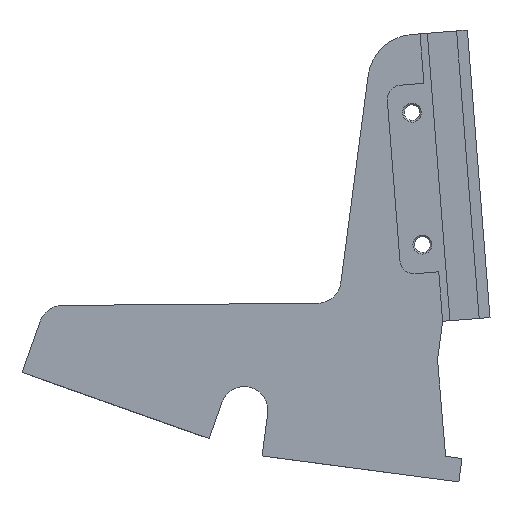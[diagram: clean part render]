
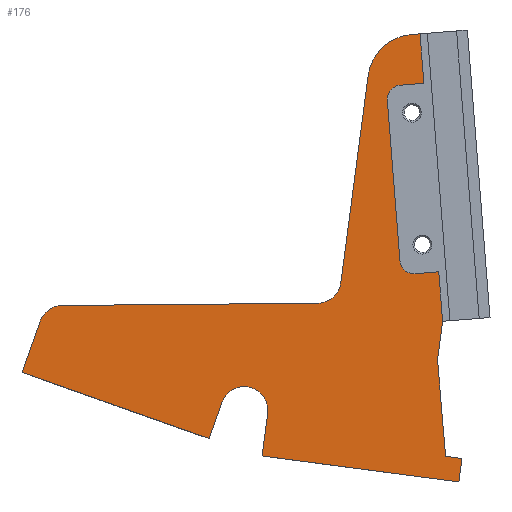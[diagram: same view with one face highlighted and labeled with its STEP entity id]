
A CAD part, left-side view. The second image highlights one B-rep face of the part: STEP entity #176.
In plain terms, the highlighted planar face has unit normal (-1, 0, 0).
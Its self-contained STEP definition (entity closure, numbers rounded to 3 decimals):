
#142=FACE_OUTER_BOUND('',#496,.T.);
#176=ADVANCED_FACE('',(#142),#235,.F.);
#235=PLANE('',#1125);
#264=LINE('',#1542,#349);
#284=LINE('',#1588,#369);
#286=LINE('',#1592,#371);
#287=LINE('',#1596,#372);
#288=LINE('',#1600,#373);
#289=LINE('',#1604,#374);
#290=LINE('',#1605,#375);
#291=LINE('',#1609,#376);
#292=LINE('',#1611,#377);
#293=LINE('',#1613,#378);
#294=LINE('',#1615,#379);
#295=LINE('',#1617,#380);
#296=LINE('',#1619,#381);
#297=LINE('',#1621,#382);
#298=LINE('',#1623,#383);
#299=LINE('',#1627,#384);
#300=LINE('',#1631,#385);
#349=VECTOR('',#1243,1.);
#369=VECTOR('',#1271,1.);
#371=VECTOR('',#1275,1.);
#372=VECTOR('',#1278,1.);
#373=VECTOR('',#1281,1.);
#374=VECTOR('',#1284,1.);
#375=VECTOR('',#1285,1.);
#376=VECTOR('',#1288,1.);
#377=VECTOR('',#1289,1.);
#378=VECTOR('',#1290,1.);
#379=VECTOR('',#1291,1.);
#380=VECTOR('',#1292,1.);
#381=VECTOR('',#1293,1.);
#382=VECTOR('',#1294,1.);
#383=VECTOR('',#1295,1.);
#384=VECTOR('',#1298,1.);
#385=VECTOR('',#1301,1.);
#496=EDGE_LOOP('',(#604,#605,#606,#607,#608,#609,#610,#611,#612,#613,#614,
#615,#616,#617,#618,#619,#620,#621,#622,#623,#624,#625,#626));
#604=ORIENTED_EDGE('',*,*,#950,.F.);
#605=ORIENTED_EDGE('',*,*,#948,.T.);
#606=ORIENTED_EDGE('',*,*,#951,.T.);
#607=ORIENTED_EDGE('',*,*,#952,.T.);
#608=ORIENTED_EDGE('',*,*,#953,.T.);
#609=ORIENTED_EDGE('',*,*,#954,.T.);
#610=ORIENTED_EDGE('',*,*,#955,.T.);
#611=ORIENTED_EDGE('',*,*,#956,.T.);
#612=ORIENTED_EDGE('',*,*,#926,.T.);
#613=ORIENTED_EDGE('',*,*,#957,.T.);
#614=ORIENTED_EDGE('',*,*,#958,.T.);
#615=ORIENTED_EDGE('',*,*,#959,.T.);
#616=ORIENTED_EDGE('',*,*,#960,.T.);
#617=ORIENTED_EDGE('',*,*,#961,.T.);
#618=ORIENTED_EDGE('',*,*,#962,.T.);
#619=ORIENTED_EDGE('',*,*,#963,.T.);
#620=ORIENTED_EDGE('',*,*,#964,.T.);
#621=ORIENTED_EDGE('',*,*,#965,.F.);
#622=ORIENTED_EDGE('',*,*,#966,.F.);
#623=ORIENTED_EDGE('',*,*,#967,.T.);
#624=ORIENTED_EDGE('',*,*,#968,.F.);
#625=ORIENTED_EDGE('',*,*,#969,.T.);
#626=ORIENTED_EDGE('',*,*,#970,.F.);
#830=VERTEX_POINT('',#1541);
#831=VERTEX_POINT('',#1543);
#852=VERTEX_POINT('',#1587);
#853=VERTEX_POINT('',#1589);
#854=VERTEX_POINT('',#1593);
#855=VERTEX_POINT('',#1595);
#856=VERTEX_POINT('',#1597);
#857=VERTEX_POINT('',#1599);
#858=VERTEX_POINT('',#1601);
#859=VERTEX_POINT('',#1603);
#860=VERTEX_POINT('',#1606);
#861=VERTEX_POINT('',#1608);
#862=VERTEX_POINT('',#1610);
#863=VERTEX_POINT('',#1612);
#864=VERTEX_POINT('',#1614);
#865=VERTEX_POINT('',#1616);
#866=VERTEX_POINT('',#1618);
#867=VERTEX_POINT('',#1620);
#868=VERTEX_POINT('',#1622);
#869=VERTEX_POINT('',#1624);
#870=VERTEX_POINT('',#1626);
#871=VERTEX_POINT('',#1628);
#872=VERTEX_POINT('',#1630);
#926=EDGE_CURVE('',#831,#830,#264,.T.);
#948=EDGE_CURVE('',#853,#852,#284,.T.);
#950=EDGE_CURVE('',#853,#854,#286,.T.);
#951=EDGE_CURVE('',#852,#855,#1063,.T.);
#952=EDGE_CURVE('',#855,#856,#287,.T.);
#953=EDGE_CURVE('',#856,#857,#1064,.T.);
#954=EDGE_CURVE('',#857,#858,#288,.T.);
#955=EDGE_CURVE('',#858,#859,#1065,.T.);
#956=EDGE_CURVE('',#859,#831,#289,.T.);
#957=EDGE_CURVE('',#830,#860,#290,.T.);
#958=EDGE_CURVE('',#860,#861,#1066,.T.);
#959=EDGE_CURVE('',#861,#862,#291,.T.);
#960=EDGE_CURVE('',#862,#863,#292,.T.);
#961=EDGE_CURVE('',#863,#864,#293,.T.);
#962=EDGE_CURVE('',#864,#865,#294,.T.);
#963=EDGE_CURVE('',#865,#866,#295,.T.);
#964=EDGE_CURVE('',#866,#867,#296,.T.);
#965=EDGE_CURVE('',#868,#867,#297,.T.);
#966=EDGE_CURVE('',#869,#868,#298,.T.);
#967=EDGE_CURVE('',#869,#870,#1067,.T.);
#968=EDGE_CURVE('',#871,#870,#299,.T.);
#969=EDGE_CURVE('',#871,#872,#1068,.T.);
#970=EDGE_CURVE('',#854,#872,#300,.T.);
#1063=CIRCLE('',#1119,10.);
#1064=CIRCLE('',#1120,5.);
#1065=CIRCLE('',#1121,5.);
#1066=CIRCLE('',#1122,5.);
#1067=CIRCLE('',#1123,3.);
#1068=CIRCLE('',#1124,3.);
#1119=AXIS2_PLACEMENT_3D('',#1594,#1276,#1277);
#1120=AXIS2_PLACEMENT_3D('',#1598,#1279,#1280);
#1121=AXIS2_PLACEMENT_3D('',#1602,#1282,#1283);
#1122=AXIS2_PLACEMENT_3D('',#1607,#1286,#1287);
#1123=AXIS2_PLACEMENT_3D('',#1625,#1296,#1297);
#1124=AXIS2_PLACEMENT_3D('',#1629,#1299,#1300);
#1125=AXIS2_PLACEMENT_3D('',#1632,#1302,#1303);
#1243=DIRECTION('',(0.,-0.943,-0.334));
#1271=DIRECTION('',(0.,0.997,-0.078));
#1275=DIRECTION('',(0.,-0.078,-0.997));
#1276=DIRECTION('',(-1.,0.,0.));
#1277=DIRECTION('',(0.,-0.151,-0.989));
#1278=DIRECTION('',(0.,0.131,-0.991));
#1279=DIRECTION('',(1.,0.,0.));
#1280=DIRECTION('',(0.,-0.151,-0.989));
#1281=DIRECTION('',(0.,1.,-0.009));
#1282=DIRECTION('',(-1.,0.,0.));
#1283=DIRECTION('',(0.,-0.151,-0.989));
#1284=DIRECTION('',(0.,0.334,-0.943));
#1285=DIRECTION('',(0.,-0.334,0.943));
#1286=DIRECTION('',(1.,0.,0.));
#1287=DIRECTION('',(0.,-0.131,0.991));
#1288=DIRECTION('',(0.,0.131,-0.991));
#1289=DIRECTION('',(0.,-0.991,-0.131));
#1290=DIRECTION('',(0.,-0.131,0.991));
#1291=DIRECTION('',(0.,0.991,0.131));
#1292=DIRECTION('',(0.,0.083,0.997));
#1293=DIRECTION('',(0.,-0.131,0.991));
#1294=DIRECTION('',(0.,-0.078,-0.997));
#1295=DIRECTION('',(0.,-0.997,0.078));
#1296=DIRECTION('',(1.,0.,0.));
#1297=DIRECTION('',(0.,-0.151,-0.989));
#1298=DIRECTION('',(0.,-0.078,-0.997));
#1299=DIRECTION('',(1.,0.,0.));
#1300=DIRECTION('',(0.,-0.151,-0.989));
#1301=DIRECTION('',(0.,0.997,-0.078));
#1302=DIRECTION('',(1.,0.,0.));
#1303=DIRECTION('',(0.,-0.151,-0.989));
#1541=CARTESIAN_POINT('',(763.,90.706,-393.362));
#1542=CARTESIAN_POINT('',(763.,130.297,-379.342));
#1543=CARTESIAN_POINT('',(763.,130.297,-379.342));
#1587=CARTESIAN_POINT('',(763.,47.935,-307.852));
#1588=CARTESIAN_POINT('',(763.,36.069,-306.918));
#1589=CARTESIAN_POINT('',(763.,46.091,-307.706));
#1592=CARTESIAN_POINT('',(763.,46.091,-307.706));
#1593=CARTESIAN_POINT('',(763.,45.267,-318.174));
#1594=CARTESIAN_POINT('',(763.,47.15,-317.821));
#1595=CARTESIAN_POINT('',(763.,57.065,-316.515));
#1596=CARTESIAN_POINT('',(763.,56.008,-308.487));
#1597=CARTESIAN_POINT('',(763.,62.836,-360.353));
#1598=CARTESIAN_POINT('',(763.,67.793,-359.701));
#1599=CARTESIAN_POINT('',(763.,67.75,-364.7));
#1600=CARTESIAN_POINT('',(763.,63.403,-364.662));
#1601=CARTESIAN_POINT('',(763.,121.789,-365.172));
#1602=CARTESIAN_POINT('',(763.,121.745,-370.172));
#1603=CARTESIAN_POINT('',(763.,126.459,-368.503));
#1604=CARTESIAN_POINT('',(763.,125.29,-365.203));
#1605=CARTESIAN_POINT('',(763.,90.706,-393.362));
#1606=CARTESIAN_POINT('',(763.,87.984,-385.676));
#1607=CARTESIAN_POINT('',(763.,83.271,-387.345));
#1608=CARTESIAN_POINT('',(763.,78.314,-387.998));
#1609=CARTESIAN_POINT('',(763.,78.314,-387.998));
#1610=CARTESIAN_POINT('',(763.,79.502,-397.02));
#1611=CARTESIAN_POINT('',(763.,79.502,-397.02));
#1612=CARTESIAN_POINT('',(763.,37.861,-402.502));
#1613=CARTESIAN_POINT('',(763.,37.861,-402.502));
#1614=CARTESIAN_POINT('',(763.,37.208,-397.544));
#1615=CARTESIAN_POINT('',(763.,37.208,-397.544));
#1616=CARTESIAN_POINT('',(763.,40.678,-397.088));
#1617=CARTESIAN_POINT('',(763.,41.78,-383.883));
#1618=CARTESIAN_POINT('',(763.,42.381,-376.691));
#1619=CARTESIAN_POINT('',(763.,44.991,-396.52));
#1620=CARTESIAN_POINT('',(763.,41.305,-368.518));
#1621=CARTESIAN_POINT('',(763.,42.128,-358.051));
#1622=CARTESIAN_POINT('',(763.,42.128,-358.051));
#1623=CARTESIAN_POINT('',(763.,50.104,-358.678));
#1624=CARTESIAN_POINT('',(763.,47.113,-358.443));
#1625=CARTESIAN_POINT('',(763.,47.348,-355.452));
#1626=CARTESIAN_POINT('',(763.,50.339,-355.688));
#1627=CARTESIAN_POINT('',(763.,53.242,-318.802));
#1628=CARTESIAN_POINT('',(763.,53.007,-321.792));
#1629=CARTESIAN_POINT('',(763.,50.016,-321.557));
#1630=CARTESIAN_POINT('',(763.,50.251,-318.566));
#1631=CARTESIAN_POINT('',(763.,45.267,-318.174));
#1632=CARTESIAN_POINT('',(763.,83.271,-387.345));
